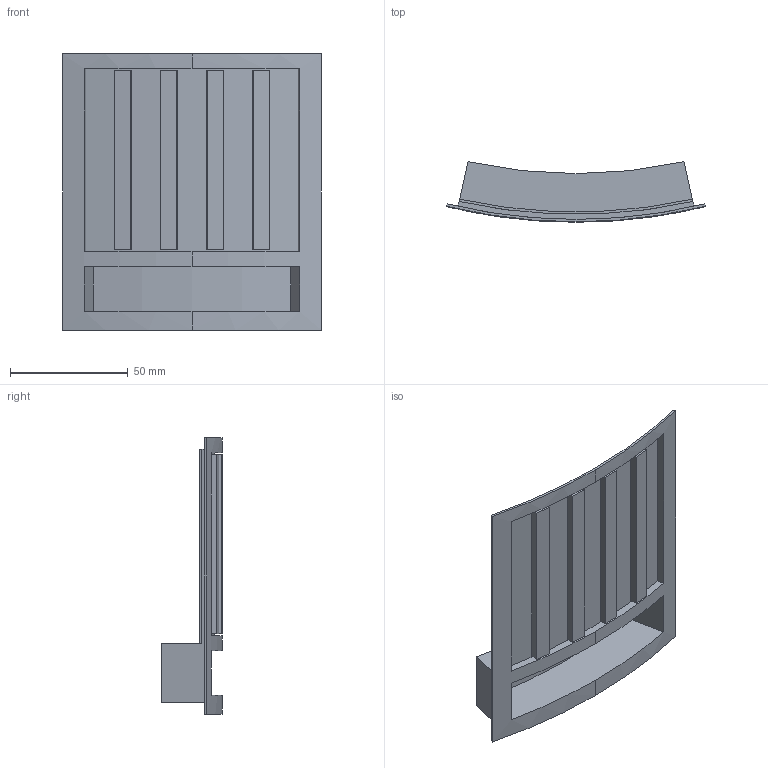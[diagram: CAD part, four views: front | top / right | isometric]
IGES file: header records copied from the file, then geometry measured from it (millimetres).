
Start section: 3D InterOp IGES (Version 21 0 3), Spatial Corp. Copyright (c) 1999-2007.
Global section: file name: CSR POCKET VENT ASSY ANH - 20140325.igs; native system: Spatial Corp.; preprocessor: 3D InterOp GENERIC/IGES 3.0; author: Noname; organization: Noname; date: 20140505.112608; units: inch
Bounding box: 110.06 x 25.68 x 117.47 mm (x, y, z)
Surface area: 45422.7 mm2 (no closed solid volume)
Topology: 0 solids, 0 shells, 54 faces, 258 edges, 258 vertices
Faces by surface type: extrusion 45, revolution 9
